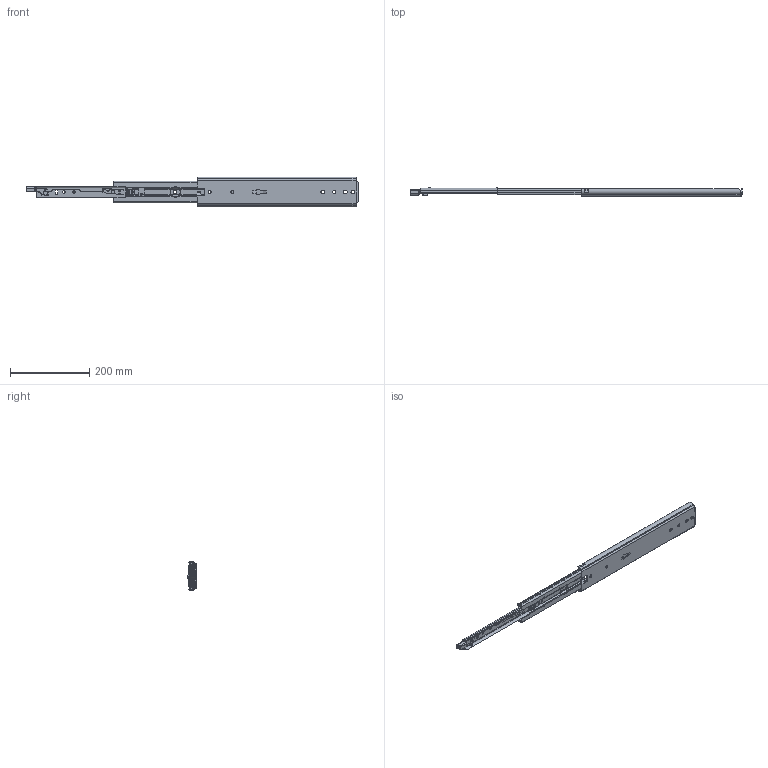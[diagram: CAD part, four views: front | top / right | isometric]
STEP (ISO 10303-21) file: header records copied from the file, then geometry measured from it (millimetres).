
FILE_DESCRIPTION((''),'2;1');
FILE_NAME('DG-76-3S-16YOU_ASM','2023-05-09T',('jishu015'),(''),'PRO/ENGINEER BY PARAMETRIC TECHNOLOGY CORPORATION, 2010280','PRO/ENGINEER BY PARAMETRIC TECHNOLOGY CORPORATION, 2010280','');
FILE_SCHEMA(('CONFIG_CONTROL_DESIGN'));
Products named in the file (29): KP-76-04WAIKE-1816__; 1076-WAIKEZIDANJIAO16__; WAIK16___ASM; 1076XIAOZHUTIAO-22516__; 16__; 1076XIAOZHUTIAO-17516___ASM; KP-76-04ZHONGGUI1816__; 76CHANGGUIZHONGGUIJIAO16__; 3X6WODIN16__; ZHONGGUIBAIKOU16__; PJ-76-30_; PJ-76-03_; 76-XIAOZHUJIA-11_; GANGZHU-XIAO_; ZHUJIA-XIAO__ASM; ZHONGGUI6___ASM; KP-76-04NEIGUI1816__; PJ-76-31_; DAOGPIAN16__; 1053-3SBANJ01_; JIAO-11_; 76XINSUOKOU_; PJ-338_; PJ-356_; PJ-357_; PJ-336_; M4X4_; NEIGUI16___ASM; DG-76-3S-16YOU_ASM
Assembly tree (46 placements, depth 4):
  DG-76-3S-16YOU_ASM
    WAIK16___ASM
      KP-76-04WAIKE-1816__
      1076-WAIKEZIDANJIAO16__  x2
    1076XIAOZHUTIAO-17516___ASM  x2
      1076XIAOZHUTIAO-22516__
      16__
    ZHONGGUI6___ASM
      KP-76-04ZHONGGUI1816__
      76CHANGGUIZHONGGUIJIAO16__
      3X6WODIN16__
      ZHONGGUIBAIKOU16__
      PJ-76-30_
      PJ-76-03_
      ZHUJIA-XIAO__ASM
        76-XIAOZHUJIA-11_
        GANGZHU-XIAO_  x12
    NEIGUI16___ASM
      KP-76-04NEIGUI1816__
      PJ-76-31_
      DAOGPIAN16__
      1053-3SBANJ01_
      JIAO-11_
      76XINSUOKOU_
      PJ-338_
      PJ-356_
      PJ-357_
      PJ-336_
      M4X4_
Bounding box: 838.42 x 20.7 x 75.3 mm (x, y, z)
Volume: 264353.9 mm3; surface area: 254918.6 mm2
Topology: 48 solids, 48 shells, 1623 faces, 4781 edges, 3081 vertices
Faces by surface type: plane 747, cylinder 606, bspline 100, torus 64, sphere 55, cone 28, extrusion 23
Entity records: 58568 total; most frequent: CARTESIAN_POINT 18539, ORIENTED_EDGE 8758, DIRECTION 7834, EDGE_CURVE 4379, VERTEX_POINT 2869, AXIS2_PLACEMENT_3D 2744, VECTOR 2346, LINE 2323
